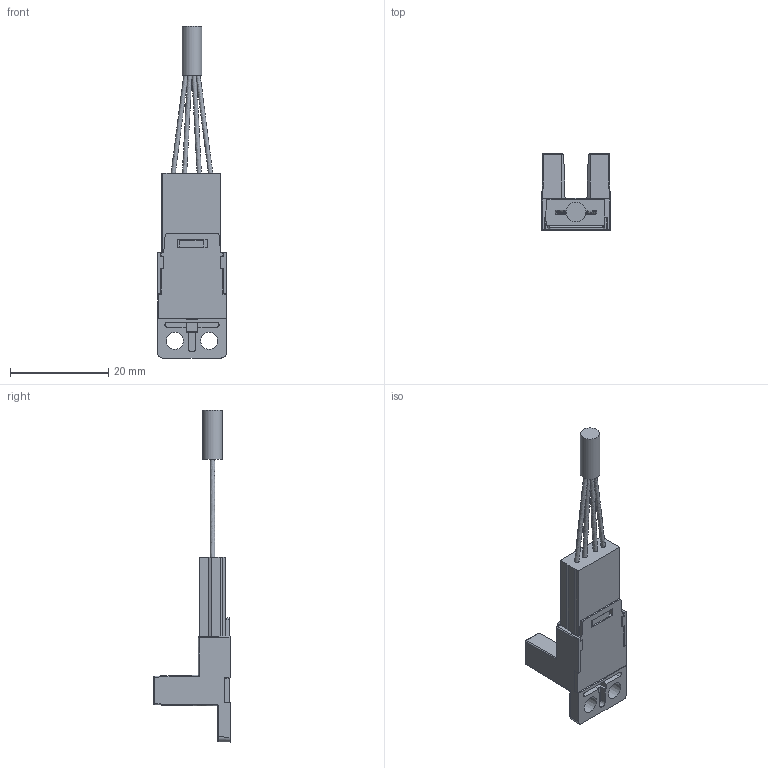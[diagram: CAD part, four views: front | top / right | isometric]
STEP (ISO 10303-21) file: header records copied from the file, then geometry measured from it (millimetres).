
FILE_DESCRIPTION(/* description */ (''),/* implementation_level */ '2;1');
FILE_NAME(/* name */ '307-接插件.stp',/* time_stamp */ '2016-12-22T15:39:13+08:00',/* author */ (''),/* organization */ (''),/* preprocessor_version */ 'ST-DEVELOPER v16',/* originating_system */ 'SIEMENS PLM Software NX 10.0',/* authorisation */ '');
FILE_SCHEMA (('AP203_CONFIGURATION_CONTROLLED_3D_DESIGN_OF_MECHANICAL_PARTS_AND_ASSEMBLIES_MIM_LF { 1 0 10303 403 2 1 2}'));
Products named in the file (1): Gavi0C983A09katt
Bounding box: 14 x 15.5 x 67.68 mm (x, y, z)
Volume: 2404.3 mm3; surface area: 5150.5 mm2
Topology: 14 solids, 25 shells, 1494 faces, 4004 edges, 2607 vertices
Faces by surface type: plane 891, bspline 287, cylinder 229, sphere 40, extrusion 32, torus 10, cone 5
Full cylindrical faces by diameter (mm): 1 x4, 1.2 x4, 1.5 x2, 4 x1
Entity records: 67199 total; most frequent: CARTESIAN_POINT 31874, ORIENTED_EDGE 7916, DIRECTION 6095, EDGE_CURVE 3958, VECTOR 2769, LINE 2737, VERTEX_POINT 2595, AXIS2_PLACEMENT_3D 1663
